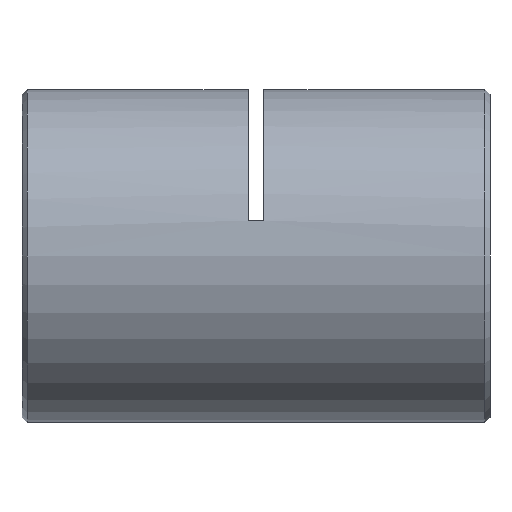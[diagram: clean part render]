
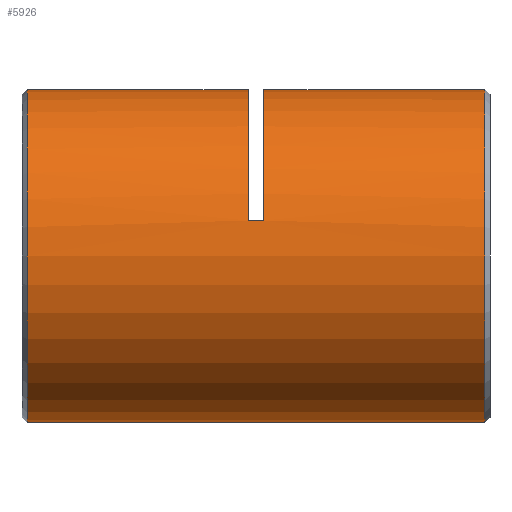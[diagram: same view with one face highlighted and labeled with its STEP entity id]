
A CAD part, left-side view. The second image highlights one B-rep face of the part: STEP entity #5926.
In plain terms, the highlighted cylindrical face has radius 16 mm (diameter 32 mm), a partial arc.
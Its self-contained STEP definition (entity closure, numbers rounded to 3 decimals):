
#34 = DIRECTION ( 'NONE',  ( 0., 1., 0. ) ) ;
#52 = DIRECTION ( 'NONE',  ( 0., 0., 1. ) ) ;
#168 = CARTESIAN_POINT ( 'NONE',  ( 0., 0.75, 16. ) ) ;
#203 = DIRECTION ( 'NONE',  ( 0., 0., 1. ) ) ;
#390 = CARTESIAN_POINT ( 'NONE',  ( -15.632, 22., 3.413 ) ) ;
#461 = DIRECTION ( 'NONE',  ( 0., 0., 1. ) ) ;
#662 = DIRECTION ( 'NONE',  ( 0., 1., 0. ) ) ;
#737 = AXIS2_PLACEMENT_3D ( 'NONE', #5089, #1565, #5728 ) ;
#771 = CYLINDRICAL_SURFACE ( 'NONE', #4901, 16. ) ;
#803 = LINE ( 'NONE', #4655, #2677 ) ;
#818 = CARTESIAN_POINT ( 'NONE',  ( 0., 22., 16. ) ) ;
#888 = LINE ( 'NONE', #1589, #3495 ) ;
#897 = CARTESIAN_POINT ( 'NONE',  ( -15.632, 22.75, 3.413 ) ) ;
#1128 = VECTOR ( 'NONE', #1984, 1000. ) ;
#1148 = CIRCLE ( 'NONE', #737, 16. ) ;
#1202 = CARTESIAN_POINT ( 'NONE',  ( 0., 22., 0. ) ) ;
#1312 = EDGE_CURVE ( 'NONE', #5397, #2527, #4267, .T. ) ;
#1505 = EDGE_CURVE ( 'NONE', #2180, #5682, #3828, .T. ) ;
#1534 = ORIENTED_EDGE ( 'NONE', *, *, #1312, .F. ) ;
#1559 = DIRECTION ( 'NONE',  ( 0., 1., 0. ) ) ;
#1565 = DIRECTION ( 'NONE',  ( 0., -1., 0. ) ) ;
#1585 = VERTEX_POINT ( 'NONE', #2195 ) ;
#1589 = CARTESIAN_POINT ( 'NONE',  ( 0., 0., 16. ) ) ;
#1643 = ORIENTED_EDGE ( 'NONE', *, *, #2661, .T. ) ;
#1984 = DIRECTION ( 'NONE',  ( 0., 1., 0. ) ) ;
#2179 = EDGE_LOOP ( 'NONE', ( #5722, #4251, #1643, #1534, #4179, #4904, #5630, #5917 ) ) ;
#2180 = VERTEX_POINT ( 'NONE', #5882 ) ;
#2195 = CARTESIAN_POINT ( 'NONE',  ( 0., 44.75, 16. ) ) ;
#2197 = AXIS2_PLACEMENT_3D ( 'NONE', #6319, #34, #461 ) ;
#2450 = VERTEX_POINT ( 'NONE', #5481 ) ;
#2470 = LINE ( 'NONE', #897, #1128 ) ;
#2473 = AXIS2_PLACEMENT_3D ( 'NONE', #5643, #3165, #203 ) ;
#2517 = AXIS2_PLACEMENT_3D ( 'NONE', #1202, #662, #52 ) ;
#2527 = VERTEX_POINT ( 'NONE', #818 ) ;
#2596 = LINE ( 'NONE', #3113, #5575 ) ;
#2661 = EDGE_CURVE ( 'NONE', #5682, #2527, #888, .T. ) ;
#2677 = VECTOR ( 'NONE', #4620, 1000. ) ;
#2688 = CIRCLE ( 'NONE', #2473, 16. ) ;
#2831 = CARTESIAN_POINT ( 'NONE',  ( 0., 23.5, 16. ) ) ;
#3113 = CARTESIAN_POINT ( 'NONE',  ( 0., 0., -16. ) ) ;
#3150 = CARTESIAN_POINT ( 'NONE',  ( -15.632, 23.5, 3.413 ) ) ;
#3165 = DIRECTION ( 'NONE',  ( 0., 1., 0. ) ) ;
#3171 = VERTEX_POINT ( 'NONE', #2831 ) ;
#3313 = EDGE_CURVE ( 'NONE', #5397, #4771, #2470, .T. ) ;
#3495 = VECTOR ( 'NONE', #5501, 1000. ) ;
#3759 = FACE_OUTER_BOUND ( 'NONE', #2179, .T. ) ;
#3828 = CIRCLE ( 'NONE', #2197, 16. ) ;
#4179 = ORIENTED_EDGE ( 'NONE', *, *, #3313, .T. ) ;
#4193 = EDGE_CURVE ( 'NONE', #4771, #3171, #2688, .T. ) ;
#4220 = DIRECTION ( 'NONE',  ( 0., 0., 1. ) ) ;
#4251 = ORIENTED_EDGE ( 'NONE', *, *, #1505, .T. ) ;
#4267 = CIRCLE ( 'NONE', #2517, 16. ) ;
#4518 = EDGE_CURVE ( 'NONE', #1585, #2450, #1148, .T. ) ;
#4620 = DIRECTION ( 'NONE',  ( 0., 1., 0. ) ) ;
#4655 = CARTESIAN_POINT ( 'NONE',  ( 0., 0., 16. ) ) ;
#4771 = VERTEX_POINT ( 'NONE', #3150 ) ;
#4776 = EDGE_CURVE ( 'NONE', #2180, #2450, #2596, .T. ) ;
#4901 = AXIS2_PLACEMENT_3D ( 'NONE', #5224, #5166, #4220 ) ;
#4904 = ORIENTED_EDGE ( 'NONE', *, *, #4193, .T. ) ;
#5089 = CARTESIAN_POINT ( 'NONE',  ( 0., 44.75, 0. ) ) ;
#5166 = DIRECTION ( 'NONE',  ( 0., 1., 0. ) ) ;
#5224 = CARTESIAN_POINT ( 'NONE',  ( 0., 0., 0. ) ) ;
#5271 = EDGE_CURVE ( 'NONE', #3171, #1585, #803, .T. ) ;
#5397 = VERTEX_POINT ( 'NONE', #390 ) ;
#5481 = CARTESIAN_POINT ( 'NONE',  ( 0., 44.75, -16. ) ) ;
#5501 = DIRECTION ( 'NONE',  ( 0., 1., 0. ) ) ;
#5575 = VECTOR ( 'NONE', #1559, 1000. ) ;
#5630 = ORIENTED_EDGE ( 'NONE', *, *, #5271, .T. ) ;
#5643 = CARTESIAN_POINT ( 'NONE',  ( 0., 23.5, 0. ) ) ;
#5682 = VERTEX_POINT ( 'NONE', #168 ) ;
#5722 = ORIENTED_EDGE ( 'NONE', *, *, #4776, .F. ) ;
#5728 = DIRECTION ( 'NONE',  ( 0., 0., -1. ) ) ;
#5882 = CARTESIAN_POINT ( 'NONE',  ( 0., 0.75, -16. ) ) ;
#5917 = ORIENTED_EDGE ( 'NONE', *, *, #4518, .T. ) ;
#5926 = ADVANCED_FACE ( 'NONE', ( #3759 ), #771, .T. ) ;
#6319 = CARTESIAN_POINT ( 'NONE',  ( 0., 0.75, 0. ) ) ;
